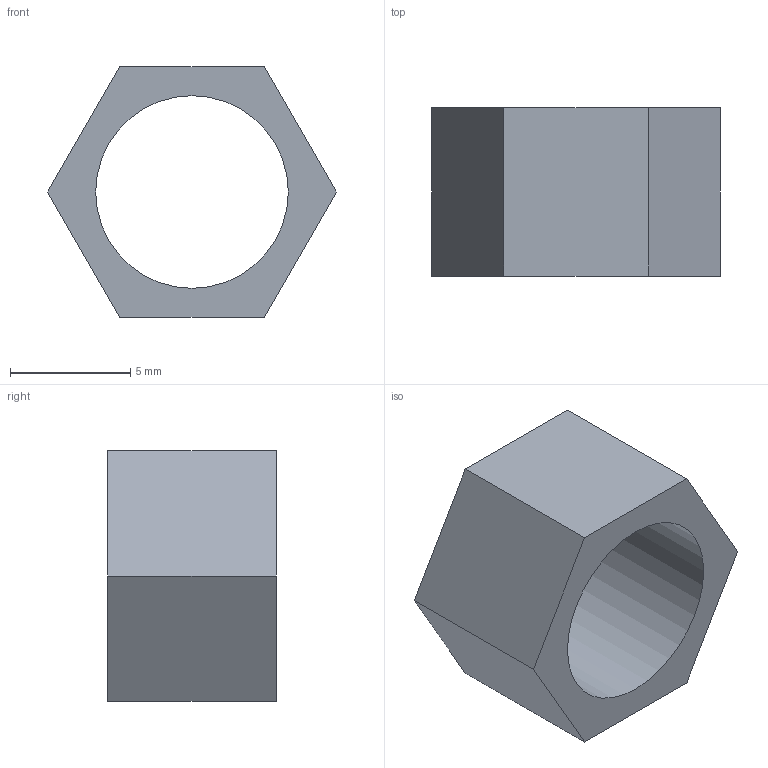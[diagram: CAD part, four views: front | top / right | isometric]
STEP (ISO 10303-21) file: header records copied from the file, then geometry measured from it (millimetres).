
FILE_DESCRIPTION(('Open CASCADE Model'),'2;1');
FILE_NAME('Open CASCADE Shape Model','2026-10-20T13:19:35',('Author'),( 'Open CASCADE'),'Open CASCADE STEP processor 7.9','Open CASCADE 7.9' ,'Unknown');
FILE_SCHEMA(('AUTOMOTIVE_DESIGN { 1 0 10303 214 1 1 1 1 }'));
Length unit declared in the file: millimetre
Products named in the file (1): Open CASCADE STEP translator 7.9 62
Bounding box: 12 x 7 x 10.39 mm (x, y, z)
Volume: 302.9 mm3; surface area: 514.5 mm2
Topology: 1 solids, 1 shells, 9 faces, 21 edges, 14 vertices
Faces by surface type: plane 8, cylinder 1
Full cylindrical faces by diameter (mm): 8 x1
Entity records: 550 total; most frequent: CARTESIAN_POINT 99, DIRECTION 83, LINE 59, VECTOR 59, ORIENTED_EDGE 42, PCURVE 42, DEFINITIONAL_REPRESENTATION 42, EDGE_CURVE 21
